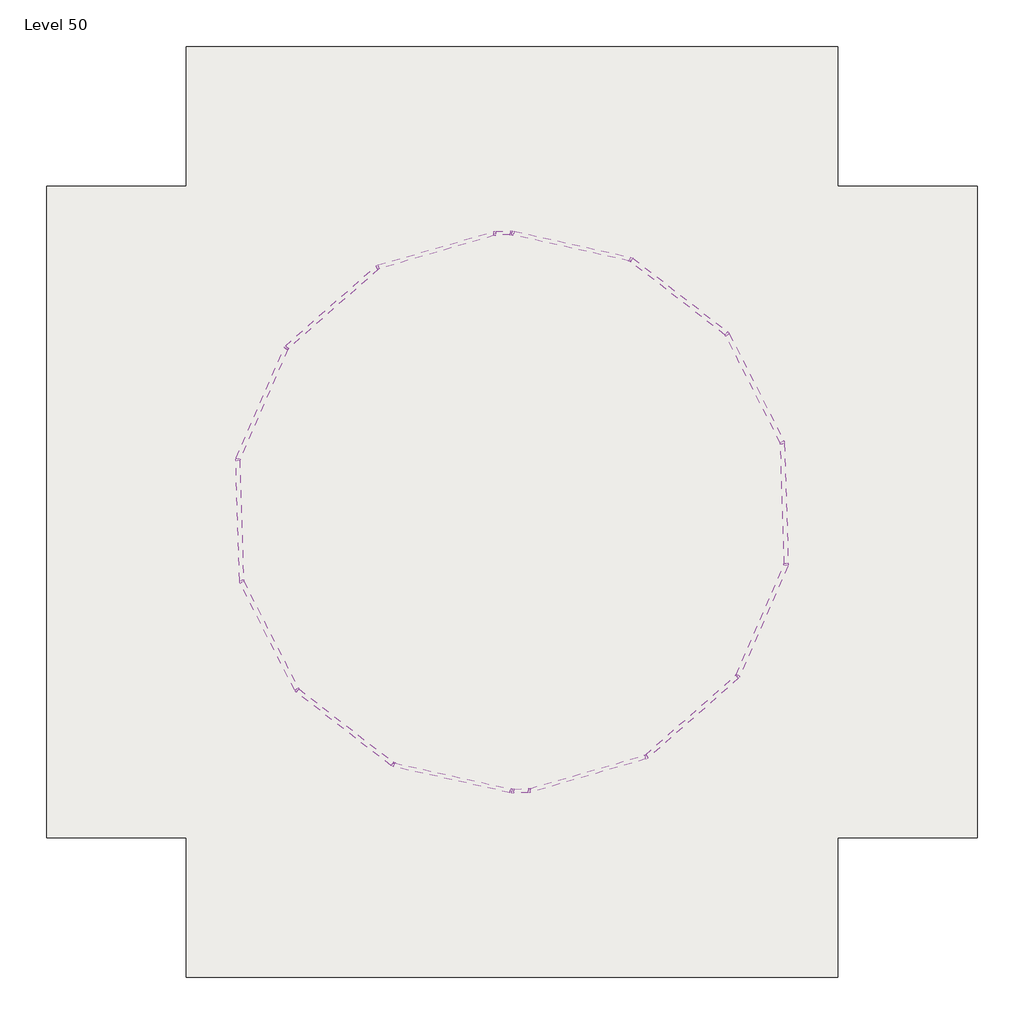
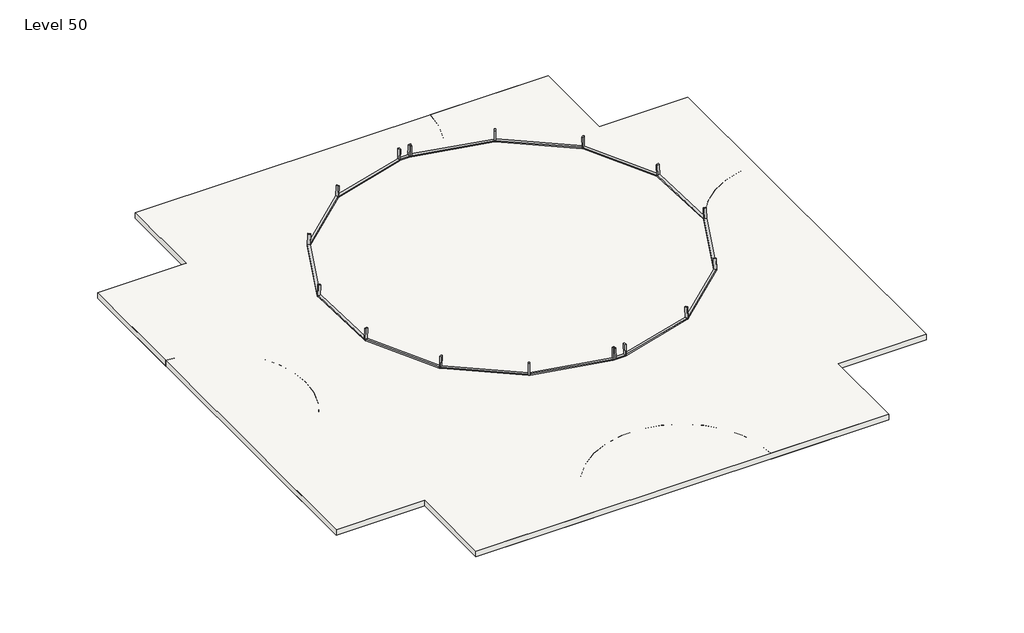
# One storey: 34 members, 3 slabs.
"""IFC4 building model written with IfcOpenShell, lengths in millimetres."""

import ifcopenshell
import ifcopenshell.guid

model = None  # the IFC model being written
_history = None  # IfcOwnerHistory: only IFC2X3 demands one
_inside = {}  # id of a spatial element -> (the spatial element, [elements in it])
_under = {}  # id of a project, library or spatial element -> (it, [spatial elements below it])
_declared = {}  # id of a project -> (the project, [libraries it declares])
_typed = {}  # id of a type object -> (the type object, [elements of that type])
_made_of = {}  # id of a material, layer set ... -> (it, [elements and type objects made of it])


def new_model(schema):
    """Start an empty IFC model of exactly this schema.

    Asked for "IFC4X3", IfcOpenShell would pick the latest addendum, in which some entities
    have other attributes; the version numbers below select the first issue.
    IFC2X3 requires an IfcOwnerHistory on every rooted entity: one is made here for all.
    """
    global model, _history
    if schema == "IFC4X3":
        model = ifcopenshell.file(schema_version=(4, 3, 0, 0))
    else:
        model = ifcopenshell.file(schema=schema)
    _inside.clear()
    _under.clear()
    _declared.clear()
    _typed.clear()
    _made_of.clear()
    _history = None
    if model.schema == "IFC2X3":
        org = make("IfcOrganization", Name="unknown")
        user = make(
            "IfcPersonAndOrganization",
            ThePerson=make("IfcPerson", FamilyName="unknown"),
            TheOrganization=org,
        )
        app = make(
            "IfcApplication",
            ApplicationDeveloper=org,
            Version="unknown",
            ApplicationFullName="unknown",
            ApplicationIdentifier="unknown",
        )
        _history = make(
            "IfcOwnerHistory",
            OwningUser=user,
            OwningApplication=app,
            ChangeAction="ADDED",
            CreationDate=0,
        )
    return model


def make(cls, **values):
    """One entity of the class cls with the attributes given. An attribute that is None is left unset."""
    return model.create_entity(
        cls, **{name: value for name, value in values.items() if value is not None}
    )


def rooted(cls, **values):
    """An entity with a GlobalId (a new one), such as an element, a storey or a relation."""
    return make(cls, GlobalId=ifcopenshell.guid.new(), OwnerHistory=_history, **values)


def si_unit(unit_type, name, prefix=None):
    """IfcSIUnit, for example si_unit("LENGTHUNIT", "METRE", prefix="MILLI")."""
    return make("IfcSIUnit", UnitType=unit_type, Prefix=prefix, Name=name)


def assignment(units):
    """IfcUnitAssignment: the units of a project."""
    return None if units is None else make("IfcUnitAssignment", Units=units)


def point(xyz):
    """IfcCartesianPoint."""
    return None if xyz is None else make("IfcCartesianPoint", Coordinates=xyz)


def direction(xyz):
    """IfcDirection."""
    return None if xyz is None else make("IfcDirection", DirectionRatios=xyz)


def frame(location, z_axis=None, x_axis=None):
    """IfcAxis2Placement3D, a coordinate frame: its origin and axes. An axis left out is left unset."""
    return make(
        "IfcAxis2Placement3D",
        Location=point(location),
        Axis=direction(z_axis),
        RefDirection=direction(x_axis),
    )


def frame_2d(location, x_axis=None):
    """IfcAxis2Placement2D, a coordinate frame in the plane: its origin and x axis."""
    return make(
        "IfcAxis2Placement2D", Location=point(location), RefDirection=direction(x_axis)
    )


def origin():
    """The frame at (0, 0, 0) with its axes left unset."""
    return frame((0.0, 0.0, 0.0))


def place(relative_to, where):
    """IfcLocalPlacement: puts the frame where relative to a parent placement (None: the world)."""
    return make(
        "IfcLocalPlacement", PlacementRelTo=relative_to, RelativePlacement=where
    )


def context(
    kind, dimensions, precision=None, world=None, true_north=None, identifier=None
):
    """IfcGeometricRepresentationContext, for example the 3D "Model" context."""
    return make(
        "IfcGeometricRepresentationContext",
        ContextIdentifier=identifier,
        ContextType=kind,
        CoordinateSpaceDimension=dimensions,
        Precision=precision,
        WorldCoordinateSystem=world,
        TrueNorth=true_north,
    )


def project(units=None, contexts=None):
    """IfcProject with its units and contexts."""
    return rooted(
        "IfcProject",
        Name="project",
        RepresentationContexts=contexts,
        UnitsInContext=assignment(units),
    )


def spatial(cls, under=None, at=None, **own):
    """A site, building, storey or space (cls), placed at a placement, below another one or the project."""
    s = rooted(cls, ObjectPlacement=at, **own)
    if under is not None:
        _under.setdefault(under.id(), (under, []))[1].append(s)
    return s


def polyline(points):
    """IfcPolyline through the points."""
    return make("IfcPolyline", Points=[point(p) for p in points])


def circle_curve(where, radius):
    """IfcCircle in the frame where."""
    return make("IfcCircle", Position=where, Radius=radius)


def trimmed(basis, trim1, trim2, sense, master):
    """IfcTrimmedCurve: the piece of a basis curve between two trims."""
    return make(
        "IfcTrimmedCurve",
        BasisCurve=basis,
        Trim1=trim1,
        Trim2=trim2,
        SenseAgreement=sense,
        MasterRepresentation=master,
    )


def segment(curve, same_sense, transition):
    """IfcCompositeCurveSegment."""
    return make(
        "IfcCompositeCurveSegment",
        Transition=transition,
        SameSense=same_sense,
        ParentCurve=curve,
    )


def composite_curve(segments, self_intersect=None):
    """IfcCompositeCurve: segments joined end to end."""
    return make("IfcCompositeCurve", Segments=segments, SelfIntersect=self_intersect)


def outline(outer, holes=None, kind="AREA"):
    """IfcArbitraryClosedProfileDef: a profile drawn as a closed curve; with holes, ...WithVoids."""
    if holes is None:
        return make("IfcArbitraryClosedProfileDef", ProfileType=kind, OuterCurve=outer)
    return make(
        "IfcArbitraryProfileDefWithVoids",
        ProfileType=kind,
        OuterCurve=outer,
        InnerCurves=holes,
    )


def extrude(swept, where, along, depth):
    """IfcExtrudedAreaSolid: the profile swept, set in the frame where, extruded along a direction by depth."""
    return make(
        "IfcExtrudedAreaSolid",
        SweptArea=swept,
        Position=where,
        ExtrudedDirection=direction(along),
        Depth=depth,
    )


def faces_of(points, faces, orient=None, outer=None):
    """IfcFace entities. A face is a list of loops; a loop is a list of indices into points, from 0.

    orient and outer hold one flag for each loop. By default every Orientation is true, the
    first loop of a face is its IfcFaceOuterBound and the others are IfcFaceBound.
    """
    made = []
    for i, loops in enumerate(faces):
        bounds = []
        for j, loop in enumerate(loops):
            is_outer = j == 0 if outer is None else outer[i][j]
            bounds.append(
                make(
                    "IfcFaceOuterBound" if is_outer else "IfcFaceBound",
                    Bound=make("IfcPolyLoop", Polygon=[points[k] for k in loop]),
                    Orientation=True if orient is None else orient[i][j],
                )
            )
        made.append(make("IfcFace", Bounds=bounds))
    return made


def faceted_brep(points, faces, orient=None, outer=None, voids=None):
    """IfcFacetedBrep: a solid bounded by flat faces; with voids (closed shells), ...WithVoids."""
    shared = [point(p) for p in points]
    hull = make("IfcClosedShell", CfsFaces=faces_of(shared, faces, orient, outer))
    if voids is None:
        return make("IfcFacetedBrep", Outer=hull)
    return make(
        "IfcFacetedBrepWithVoids",
        Outer=hull,
        Voids=[
            make(cls, CfsFaces=faces_of(shared, fs, o, b)) for cls, fs, o, b in voids
        ],
    )


def shape(context_of_items, identifier, shape_type, items):
    """IfcShapeRepresentation: the items that make up one representation, for example the "Body"."""
    return make(
        "IfcShapeRepresentation",
        ContextOfItems=context_of_items,
        RepresentationIdentifier=identifier,
        RepresentationType=shape_type,
        Items=items,
    )


def source(mapping_origin, context_of_items, identifier, shape_type, items):
    """IfcRepresentationMap: a shape defined once, which mapped items show again and again."""
    return make(
        "IfcRepresentationMap",
        MappingOrigin=mapping_origin,
        MappedRepresentation=shape(context_of_items, identifier, shape_type, items),
    )


def transform(
    local_origin,
    x_axis=None,
    y_axis=None,
    z_axis=None,
    scale=None,
    scale2=None,
    scale3=None,
    uniform=True,
):
    """IfcCartesianTransformationOperator3D, or its non-uniform kind. x_axis, y_axis, z_axis: its Axis1, 2, 3."""
    if uniform:
        return make(
            "IfcCartesianTransformationOperator3D",
            Axis1=direction(x_axis),
            Axis2=direction(y_axis),
            LocalOrigin=point(local_origin),
            Scale=scale,
            Axis3=direction(z_axis),
        )
    return make(
        "IfcCartesianTransformationOperator3DnonUniform",
        Axis1=direction(x_axis),
        Axis2=direction(y_axis),
        LocalOrigin=point(local_origin),
        Scale=scale,
        Axis3=direction(z_axis),
        Scale2=scale2,
        Scale3=scale3,
    )


def mapped(mapping_source, mapping_target):
    """IfcMappedItem: shows the shape of a source again, moved by a transform."""
    return make(
        "IfcMappedItem", MappingSource=mapping_source, MappingTarget=mapping_target
    )


def made_of(thing, what):
    """Note that an element or type object is made of a material, layer set ...; save() writes the relation."""
    if what is not None:
        _made_of.setdefault(what.id(), (what, []))[1].append(thing)
    return thing


def element(
    cls,
    number,
    at=None,
    inside=None,
    cuts=None,
    type_object=None,
    material=None,
    context=None,
    identifier="Body",
    shape_type=None,
    held_by="IfcProductDefinitionShape",
    body=None,
    shapes=None,
    **own,
):
    """One element of the class cls, such as IfcWall. Its Tag is "e" and its number.

    at: its placement. inside: the storey or other place that contains it. cuts: it is an
    opening in that element (IfcRelVoidsElement). A single representation is given by context,
    identifier, shape_type and body (its items); several are given by shapes. held_by: the class
    of the entity that holds the representations. save() writes the other relations.
    """
    e = rooted(cls, Tag="e%d" % number, ObjectPlacement=at, **own)
    if body is not None:
        shapes = [shape(context, identifier, shape_type, body)]
    if shapes is not None:
        e.Representation = make(held_by, Representations=shapes)
    if inside is not None:
        _inside.setdefault(inside.id(), (inside, []))[1].append(e)
    if cuts is not None:
        rooted(
            "IfcRelVoidsElement", RelatingBuildingElement=cuts, RelatedOpeningElement=e
        )
    if type_object is not None:
        _typed.setdefault(type_object.id(), (type_object, []))[1].append(e)
    return made_of(e, material)


def aggregate(whole, parts):
    """IfcRelAggregates: a whole, such as a stair, and the parts it consists of."""
    return rooted("IfcRelAggregates", RelatingObject=whole, RelatedObjects=parts)


def save(model, path):
    """Write the relations noted so far, then the file.

    IfcRelAggregates (storeys below a building ...), IfcRelContainedInSpatialStructure (elements
    in a storey), IfcRelDefinesByType, IfcRelAssociatesMaterial and IfcRelDeclares: one each for
    every whole, place, type object, material and project.
    """
    for whole, parts in _under.values():
        aggregate(whole, parts)
    for where, things in _inside.values():
        rooted(
            "IfcRelContainedInSpatialStructure",
            RelatedElements=things,
            RelatingStructure=where,
        )
    for kind, things in _typed.values():
        rooted("IfcRelDefinesByType", RelatedObjects=things, RelatingType=kind)
    for what, things in _made_of.values():
        rooted("IfcRelAssociatesMaterial", RelatedObjects=things, RelatingMaterial=what)
    for by, libraries in _declared.values():
        rooted("IfcRelDeclares", RelatingContext=by, RelatedDefinitions=libraries)
    model.write(path)


def member_0456bca8(model_context):
    return source(origin(), model_context, "Body", "SweptSolid", [
        extrude(outline(polyline([(0.0, 63.5), (0.0, -63.5), (-63.5, -63.5), (-63.5, 63.5), (0.0, 63.5)])), frame((0.0, 0.0, -3895.5187766), z_axis=(0.0, 0.0, 1.0), x_axis=(1.0, 0.0, 0.0)), (0.0, 0.0, 1.0), 3895.5187766),
    ])


def member_fa179ced(model_context):
    return source(origin(), model_context, "Body", "SweptSolid", [
        extrude(outline(polyline([(0.0, 63.5), (0.0, -63.5), (-63.5, -63.5), (-63.5, 63.5), (0.0, 63.5)])), frame((0.0, 0.0, -3927.2687766), z_axis=(0.0, 0.0, 1.0), x_axis=(1.0, 0.0, 0.0)), (0.0, 0.0, 1.0), 3927.2687766),
    ])


def member_23fb2982(model_context):
    return source(origin(), model_context, "Body", "SweptSolid", [
        extrude(outline(polyline([(0.0, 63.5), (0.0, -63.5), (-63.5, -63.5), (-63.5, 63.5), (0.0, 63.5)])), frame((0.0, 0.0, -469.4025577), z_axis=(0.0, 0.0, 1.0), x_axis=(1.0, 0.0, 0.0)), (0.0, 0.0, 1.0), 469.4025577),
    ])


def member_340acb32(model_context):
    return source(origin(), model_context, "Body", "SweptSolid", [
        extrude(outline(polyline([(-63.5, -3.7401328), (63.5, 3.7401328), (63.5, -625.9387085), (-63.5, -625.9387085), (-63.5, -3.7401328)])), frame((-31.75, 0.0, 0.0), z_axis=(1.0, 0.0, 0.0), x_axis=(0.0, 1.0, 0.0)), (0.0, 0.0, 1.0), 63.5),
    ])


def member_628a761d(model_context):
    return source(origin(), model_context, "Body", "Brep", [
        faceted_brep([(0.0, 63.5, -625.9387085), (0.0, -63.5, -625.9387085), (-63.5, -63.5, -625.9387085), (-63.5, 63.5, -625.9387085), (-63.5, 63.5, 3.6229405), (0.0, 63.5, 3.7383517), (-63.5, -63.5, -3.8537629), (0.0, -63.5, -3.7383517)], [[[0, 1, 2, 3]], [[4, 5, 0, 3]], [[6, 4, 3, 2]], [[7, 6, 2, 1]], [[5, 7, 1, 0]], [[5, 4, 6, 7]]]),
    ])


def member_ef28eaa1(model_context):
    return source(origin(), model_context, "Body", "Brep", [
        faceted_brep([(0.0, 63.5, 0.0), (-63.5, 63.5, 0.0), (-63.5, -63.5, 0.0), (0.0, -63.5, 0.0), (0.0, 63.5, -629.5888061), (-63.5, 63.5, -628.7730977), (-63.5, -63.5, -621.4729024), (0.0, -63.5, -622.2886108)], [[[0, 1, 2, 3]], [[1, 0, 4, 5]], [[2, 1, 5, 6]], [[3, 2, 6, 7]], [[0, 3, 7, 4]], [[4, 7, 6, 5]]]),
    ])


model = new_model("IFC4")

# Units and contexts
model_context = context("Model", 3, world=origin())
ifc_project = project(units=[si_unit("LENGTHUNIT", "METRE", prefix="MILLI")], contexts=[model_context])

# Site, building, storey
site = spatial("IfcSite", under=ifc_project)
building = spatial("IfcBuilding", under=site)
storey = spatial("IfcBuildingStorey", under=building, Name="Level 50", Elevation=149352.0)

# Members
placement = place(None, origin())
member_shape = member_0456bca8(model_context)
element("IfcMember", 1, ObjectType="Rectangular Mullion : 2.5\" x 5\" rectangular", at=placement, inside=storey, context=model_context, shape_type="MappedRepresentation", body=[
    mapped(member_shape, transform((-345.9696586, -14468.4078204, 152400.0), x_axis=(-0.007289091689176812, -0.032597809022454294, -0.9994419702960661), y_axis=(-0.2180961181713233, -0.9753554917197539, 0.03340281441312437), z_axis=(-0.9759000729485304, 0.21821789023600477, 0.0))),
])
element("IfcMember", 2, ObjectType="Rectangular Mullion : 2.5\" x 5\" rectangular", at=placement, inside=storey, context=model_context, shape_type="MappedRepresentation", body=[
    mapped(member_shape, transform((7381.2437673, 2091.7347299, 152400.0), x_axis=(0.007289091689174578, 0.03259780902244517, -0.9994419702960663), y_axis=(0.21809611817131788, 0.9753554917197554, 0.03340281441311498), z_axis=(0.9759000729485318, -0.2182178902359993, 0.0))),
])
member_2_shape = member_fa179ced(model_context)
element("IfcMember", 3, ObjectType="Rectangular Mullion : 2.5\" x 5\" rectangular", at=placement, inside=storey, context=model_context, shape_type="MappedRepresentation", body=[
    mapped(member_2_shape, transform((-3504.6361106, -12034.2510802, 152400.0), x_axis=(-0.020478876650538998, -0.026388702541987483, -0.9994419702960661), y_axis=(-0.6127462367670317, -0.789573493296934, 0.03340281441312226), z_axis=(-0.7900143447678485, 0.6130883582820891, 0.0))),
])
element("IfcMember", 4, ObjectType="Rectangular Mullion : 2.5\" x 5\" rectangular", at=placement, inside=storey, context=model_context, shape_type="MappedRepresentation", body=[
    mapped(member_2_shape, transform((-5325.7267217, -8486.5868096, 152400.0), x_axis=(-0.02976792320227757, -0.01515317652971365, -0.9994419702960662), y_axis=(-0.8906827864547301, -0.45339654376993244, 0.03340281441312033), z_axis=(-0.45364969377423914, 0.8911800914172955, 0.0))),
])
element("IfcMember", 5, ObjectType="Rectangular Mullion : 2.5\" x 5\" rectangular", at=placement, inside=storey, context=model_context, shape_type="MappedRepresentation", body=[
    mapped(member_2_shape, transform((-5462.3670898, -4501.1605838, 152400.0), x_axis=(-0.03338688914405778, -0.001031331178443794, -0.9994419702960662), y_axis=(-0.998965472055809, -0.030858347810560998, 0.033402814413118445), z_axis=(-0.030875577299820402, 0.9995232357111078, 0.0))),
])
element("IfcMember", 6, ObjectType="Rectangular Mullion : 2.5\" x 5\" rectangular", at=placement, inside=storey, context=model_context, shape_type="MappedRepresentation", body=[
    mapped(member_2_shape, transform((-3888.530478, -837.1012078, 152400.0), x_axis=(-0.030646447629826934, 0.01328695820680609, -0.9994419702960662), y_axis=(-0.9169690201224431, 0.3975576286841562, 0.033402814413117), z_axis=(0.39777960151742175, 0.9174810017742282, 0.0))),
])
element("IfcMember", 7, ObjectType="Rectangular Mullion : 2.5\" x 5\" rectangular", at=placement, inside=storey, context=model_context, shape_type="MappedRepresentation", body=[
    mapped(member_2_shape, transform((-903.9952886, 1807.6752467, 152400.0), x_axis=(-0.02206858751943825, 0.025074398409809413, -0.9994419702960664), y_axis=(-0.6603118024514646, 0.7502483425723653, 0.03340281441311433), z_axis=(0.7506672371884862, 0.66068048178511, 0.0))),
])
element("IfcMember", 8, ObjectType="Rectangular Mullion : 2.5\" x 5\" rectangular", at=placement, inside=storey, context=model_context, shape_type="MappedRepresentation", body=[
    mapped(member_2_shape, transform((2922.7555852, 2929.4018361, 152400.0), x_axis=(-0.00928718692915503, 0.03208576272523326, -0.9994419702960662), y_axis=(-0.27788090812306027, 0.9600346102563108, 0.033402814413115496), z_axis=(0.9605706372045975, 0.2780360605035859, 0.0))),
])
element("IfcMember", 9, ObjectType="Rectangular Mullion : 2.5\" x 5\" rectangular", at=placement, inside=storey, context=model_context, shape_type="MappedRepresentation", body=[
    mapped(member_2_shape, transform((10539.9102194, -342.4220103, 152400.0), x_axis=(0.020478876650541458, 0.026388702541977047, -0.9994419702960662), y_axis=(0.6127462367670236, 0.7895734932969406, 0.033402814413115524), z_axis=(0.7900143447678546, -0.613088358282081, 0.0))),
])
element("IfcMember", 10, ObjectType="Rectangular Mullion : 2.5\" x 5\" rectangular", at=placement, inside=storey, context=model_context, shape_type="MappedRepresentation", body=[
    mapped(member_2_shape, transform((12361.0008305, -3890.086281, 152400.0), x_axis=(0.029767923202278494, 0.01515317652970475, -0.9994419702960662), y_axis=(0.8906827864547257, 0.45339654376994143, 0.03340281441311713), z_axis=(0.45364969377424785, -0.891180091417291, 0.0))),
])
element("IfcMember", 11, ObjectType="Rectangular Mullion : 2.5\" x 5\" rectangular", at=placement, inside=storey, context=model_context, shape_type="MappedRepresentation", body=[
    mapped(member_2_shape, transform((12497.6411985, -7875.5125067, 152400.0), x_axis=(0.03338688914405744, 0.0010313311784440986, -0.9994419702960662), y_axis=(0.9989654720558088, 0.03085834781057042, 0.03340281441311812), z_axis=(0.030875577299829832, -0.9995232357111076, 0.0))),
])
element("IfcMember", 12, ObjectType="Rectangular Mullion : 2.5\" x 5\" rectangular", at=placement, inside=storey, context=model_context, shape_type="MappedRepresentation", body=[
    mapped(member_2_shape, transform((10923.8045867, -11539.5718827, 152400.0), x_axis=(0.030646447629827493, -0.013286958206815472, -0.9994419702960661), y_axis=(0.9169690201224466, -0.39755762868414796, 0.03340281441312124), z_axis=(-0.3977796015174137, -0.9174810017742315, 0.0))),
])
element("IfcMember", 13, ObjectType="Rectangular Mullion : 2.5\" x 5\" rectangular", at=placement, inside=storey, context=model_context, shape_type="MappedRepresentation", body=[
    mapped(member_2_shape, transform((7939.2693973, -14184.3483372, 152400.0), x_axis=(0.02206858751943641, -0.02507439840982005, -0.9994419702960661), y_axis=(0.6603118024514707, -0.7502483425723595, 0.0334028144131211), z_axis=(-0.7506672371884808, -0.6606804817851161, 0.0))),
])
element("IfcMember", 14, ObjectType="Rectangular Mullion : 2.5\" x 5\" rectangular", at=placement, inside=storey, context=model_context, shape_type="MappedRepresentation", body=[
    mapped(member_2_shape, transform((4112.5185236, -15306.0749267, 152400.0), x_axis=(0.009287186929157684, -0.03208576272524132, -0.9994419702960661), y_axis=(0.277880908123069, -0.9600346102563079, 0.033402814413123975), z_axis=(-0.9605706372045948, -0.27803606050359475, 0.0))),
])
member_3_shape = member_23fb2982(model_context)
element("IfcMember", 15, ObjectType="Rectangular Mullion : 2.5\" x 5\" rectangular", at=placement, inside=storey, context=model_context, shape_type="MappedRepresentation", body=[
    mapped(member_3_shape, transform((3454.1673289, 2953.7028556, 152400.0), x_axis=(-0.0010562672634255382, 0.03419413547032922, -0.9994146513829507), y_axis=(-0.030857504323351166, 0.9989381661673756, 0.034210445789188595), z_axis=(0.9995232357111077, 0.030875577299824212, 0.0))),
])
element("IfcMember", 16, ObjectType="Rectangular Mullion : 2.5\" x 5\" rectangular", at=placement, inside=storey, context=model_context, shape_type="MappedRepresentation", body=[
    mapped(member_3_shape, transform((3581.1067798, -15330.3759461, 152400.0), x_axis=(0.0010562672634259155, -0.034194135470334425, -0.9994146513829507), y_axis=(0.03085750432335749, -0.9989381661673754, 0.03421044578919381), z_axis=(-0.9995232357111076, -0.030875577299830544, 0.0))),
])
member_4_shape = member_340acb32(model_context)
element("IfcMember", 17, ObjectType="Rectangular Mullion : 2.5\" x 5\" rectangular", at=placement, inside=storey, context=model_context, shape_type="MappedRepresentation", body=[
    mapped(member_4_shape, transform((-3513.2075327, -12001.1345038, 153025.5719668), x_axis=(-0.6371882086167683, 0.7707082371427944, 0.0), y_axis=(-0.7702566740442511, -0.6368148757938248, 0.034226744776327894), z_axis=(0.026378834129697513, 0.021808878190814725, 0.9994140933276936))),
])
element("IfcMember", 18, ObjectType="Rectangular Mullion : 2.5\" x 5\" rectangular", at=placement, inside=storey, context=model_context, shape_type="MappedRepresentation", body=[
    mapped(member_4_shape, transform((-5319.3768815, -8452.9734723, 153025.5719668), x_axis=(-0.24824532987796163, 0.9686971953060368, 0.0), y_axis=(-0.9681296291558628, -0.24809988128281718, 0.03422674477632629), z_axis=(0.03315535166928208, 0.008496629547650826, 0.9994140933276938))),
])
element("IfcMember", 19, ObjectType="Rectangular Mullion : 2.5\" x 5\" rectangular", at=placement, inside=storey, context=model_context, shape_type="MappedRepresentation", body=[
    mapped(member_4_shape, transform((-367.8296911, -14442.0959241, 153025.5719668), x_axis=(-0.9047619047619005, 0.4259177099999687, 0.0), y_axis=(-0.4256681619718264, -0.904231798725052, 0.0342267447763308), z_axis=(0.014577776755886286, 0.030967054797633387, 0.9994140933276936))),
])
element("IfcMember", 20, ObjectType="Rectangular Mullion : 2.5\" x 5\" rectangular", at=placement, inside=storey, context=model_context, shape_type="MappedRepresentation", body=[
    mapped(member_4_shape, transform((-5442.3054806, -4473.4530262, 153025.5719668), x_axis=(0.18798237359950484, 0.9821724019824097, 0.0), y_axis=(-0.9815969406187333, 0.1878722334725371, 0.03422674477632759), z_axis=(0.03361656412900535, -0.006434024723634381, 0.9994140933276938))),
])
element("IfcMember", 21, ObjectType="Rectangular Mullion : 2.5\" x 5\" rectangular", at=placement, inside=storey, context=model_context, shape_type="MappedRepresentation", body=[
    mapped(member_4_shape, transform((-3858.5783588, -820.5770599, 153025.5719668), x_axis=(0.5884039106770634, 0.8085671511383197, 0.0), y_axis=(-0.8080934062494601, 0.5880591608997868, 0.034226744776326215), z_axis=(0.027674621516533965, -0.020139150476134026, 0.9994140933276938))),
])
element("IfcMember", 22, ObjectType="Rectangular Mullion : 2.5\" x 5\" rectangular", at=placement, inside=storey, context=model_context, shape_type="MappedRepresentation", body=[
    mapped(member_4_shape, transform((-869.8578249, 1809.8685283, 153025.5719668), x_axis=(0.8767485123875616, 0.4809491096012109, 0.0), y_axis=(-0.48066731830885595, 0.8762348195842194, 0.03422674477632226), z_axis=(0.016461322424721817, -0.03000824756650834, 0.999414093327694))),
])
element("IfcMember", 23, ObjectType="Rectangular Mullion : 2.5\" x 5\" rectangular", at=placement, inside=storey, context=model_context, shape_type="MappedRepresentation", body=[
    mapped(member_4_shape, transform((2954.5760193, 2916.8464834, 153025.5719668), x_axis=(0.9980933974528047, 0.061721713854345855, 0.0), y_axis=(-0.061685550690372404, 0.9975086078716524, 0.03422674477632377), z_axis=(0.0021125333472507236, -0.034161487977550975, 0.9994140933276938))),
])
element("IfcMember", 24, ObjectType="Rectangular Mullion : 2.5\" x 5\" rectangular", at=placement, inside=storey, context=model_context, shape_type="MappedRepresentation", body=[
    mapped(member_4_shape, transform((7403.1037999, 2065.4228336, 153025.5719668), x_axis=(0.9047619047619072, -0.4259177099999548, 0.0), y_axis=(0.42566816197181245, 0.9042317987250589, 0.03422674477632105), z_axis=(-0.014577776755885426, -0.030967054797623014, 0.9994140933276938))),
])
element("IfcMember", 25, ObjectType="Rectangular Mullion : 2.5\" x 5\" rectangular", at=placement, inside=storey, context=model_context, shape_type="MappedRepresentation", body=[
    mapped(member_4_shape, transform((10548.4816414, -375.5385867, 153025.5719668), x_axis=(0.6371882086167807, -0.7707082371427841, 0.0), y_axis=(0.7702566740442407, 0.6368148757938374, 0.03422674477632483), z_axis=(-0.026378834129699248, -0.02180887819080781, 0.9994140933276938))),
])
element("IfcMember", 26, ObjectType="Rectangular Mullion : 2.5\" x 5\" rectangular", at=placement, inside=storey, context=model_context, shape_type="MappedRepresentation", body=[
    mapped(member_4_shape, transform((12354.6509902, -3923.6996182, 153025.5719668), x_axis=(0.24824532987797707, -0.9686971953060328, 0.0), y_axis=(0.9681296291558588, 0.24809988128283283, 0.034226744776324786), z_axis=(-0.03315535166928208, -0.008496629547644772, 0.9994140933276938))),
])
element("IfcMember", 27, ObjectType="Rectangular Mullion : 2.5\" x 5\" rectangular", at=placement, inside=storey, context=model_context, shape_type="MappedRepresentation", body=[
    mapped(member_4_shape, transform((12477.5795894, -7903.2200643, 153025.5719668), x_axis=(-0.1879823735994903, -0.9821724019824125, 0.0), y_axis=(0.981596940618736, -0.18787223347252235, 0.03422674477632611), z_axis=(-0.033616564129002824, 0.006434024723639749, 0.9994140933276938))),
])
element("IfcMember", 28, ObjectType="Rectangular Mullion : 2.5\" x 5\" rectangular", at=placement, inside=storey, context=model_context, shape_type="MappedRepresentation", body=[
    mapped(member_4_shape, transform((10893.8524675, -11556.0960307, 153025.5719668), x_axis=(-0.5884039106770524, -0.8085671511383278, 0.0), y_axis=(0.8080934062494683, -0.5880591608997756, 0.034226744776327), z_axis=(-0.027674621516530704, 0.02013915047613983, 0.9994140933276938))),
])
element("IfcMember", 29, ObjectType="Rectangular Mullion : 2.5\" x 5\" rectangular", at=placement, inside=storey, context=model_context, shape_type="MappedRepresentation", body=[
    mapped(member_4_shape, transform((7905.1319337, -14186.5416188, 153025.5719668), x_axis=(-0.876748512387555, -0.4809491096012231, 0.0), y_axis=(0.480667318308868, -0.8762348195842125, 0.03422674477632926), z_axis=(-0.016461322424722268, 0.030008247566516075, 0.9994140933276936))),
])
element("IfcMember", 30, ObjectType="Rectangular Mullion : 2.5\" x 5\" rectangular", at=placement, inside=storey, context=model_context, shape_type="MappedRepresentation", body=[
    mapped(member_4_shape, transform((4080.6980895, -15293.5195739, 153025.5719668), x_axis=(-0.9980933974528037, -0.061721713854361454, 0.0), y_axis=(0.06168555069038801, -0.9975086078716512, 0.03422674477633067), z_axis=(-0.002112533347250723, 0.034161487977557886, 0.9994140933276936))),
])
member_5_shape = member_628a761d(model_context)
element("IfcMember", 31, ObjectType="Rectangular Mullion : 2.5\" x 5\" rectangular", at=placement, inside=storey, context=model_context, shape_type="MappedRepresentation", body=[
    mapped(member_5_shape, transform((3517.6370544, 2934.2396103, 153025.5719668), x_axis=(0.9995237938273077, 0.030839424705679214, 0.0010561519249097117), y_axis=(-0.03085750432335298, 0.9989381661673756, 0.034210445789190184), z_axis=(0.0, -0.034226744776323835, 0.9994140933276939))),
])
element("IfcMember", 32, ObjectType="Rectangular Mullion : 2.5\" x 5\" rectangular", at=placement, inside=storey, context=model_context, shape_type="MappedRepresentation", body=[
    mapped(member_5_shape, transform((3517.6370544, -15310.9127008, 153025.5719668), x_axis=(-0.9995237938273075, -0.030839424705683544, 0.0010561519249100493), y_axis=(0.030857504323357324, -0.9989381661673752, 0.03421044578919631), z_axis=(0.0, 0.03422674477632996, 0.9994140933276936))),
])
member_6_shape = member_ef28eaa1(model_context)
element("IfcMember", 33, ObjectType="Rectangular Mullion : 2.5\" x 5\" rectangular", at=placement, inside=storey, context=model_context, shape_type="MappedRepresentation", body=[
    mapped(member_6_shape, transform((3517.6370544, -15332.3365453, 152400.0), x_axis=(0.9759272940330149, -0.2179683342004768, 0.007464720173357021), y_axis=(-0.21809611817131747, -0.9753554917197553, 0.033402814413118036), z_axis=(0.0, -0.03422674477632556, -0.9994140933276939))),
])
element("IfcMember", 34, ObjectType="Rectangular Mullion : 2.5\" x 5\" rectangular", at=placement, inside=storey, context=model_context, shape_type="MappedRepresentation", body=[
    mapped(member_6_shape, transform((3517.6370544, 2955.6634547, 152400.0), x_axis=(-0.9759272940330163, 0.21796833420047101, 0.007464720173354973), y_axis=(0.2180961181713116, 0.9753554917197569, 0.03340281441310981), z_axis=(0.0, 0.03422674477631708, -0.999414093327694))),
])

# Slabs
element("IfcSlab", 35, ObjectType="Generic - 12\"", at=placement, inside=storey, context=model_context, shape_type="SweptSolid", body=[
    extrude(outline(polyline([(-7150.3629456, 4479.6634547), (-7150.3629456, 9051.6634547), (14185.6370544, 9051.6634547), (14185.6370544, 4479.6634547), (18757.6370544, 4479.6634547), (18757.6370544, -16856.3365453), (14185.6370544, -16856.3365453), (14185.6370544, -21428.3365453), (-7150.3629456, -21428.3365453), (-7150.3629456, -16856.3365453), (-11722.3629456, -16856.3365453), (-11722.3629456, 4479.6634547), (-7150.3629456, 4479.6634547)])), frame((0.0, 0.0, 149047.2), z_axis=(0.0, 0.0, 1.0), x_axis=(1.0, 0.0, 0.0)), (0.0, 0.0, 1.0), 304.8),
])
element("IfcSlab", 36, ObjectType="Generic - 12\"", at=placement, inside=storey, context=model_context, shape_type="SweptSolid", body=[
    extrude(outline(polyline([(-7150.3629456, 4479.6634547), (-7150.3629456, 9051.6634547), (14185.6370544, 9051.6634547), (14185.6370544, 4479.6634547), (18757.6370544, 4479.6634547), (18757.6370544, -16856.3365453), (14185.6370544, -16856.3365453), (14185.6370544, -21428.3365453), (-7150.3629456, -21428.3365453), (-7150.3629456, -16856.3365453), (-11722.3629456, -16856.3365453), (-11722.3629456, 4479.6634547), (-7150.3629456, 4479.6634547)])), frame((0.0, 0.0, 149047.2), z_axis=(0.0, 0.0, 1.0), x_axis=(1.0, 0.0, 0.0)), (0.0, 0.0, 1.0), 304.8),
])
element("IfcSlab", 37, ObjectType="Generic - 12\"", at=placement, inside=storey, context=model_context, shape_type="SweptSolid", body=[
    extrude(outline(composite_curve([segment(polyline([(-7150.3629456, 4479.6634547), (-7150.3629456, 9051.6634547), (-1054.3629456, 9051.6634547)]), True, "CONTINUOUS"), segment(trimmed(circle_curve(frame_2d((3517.6370544, 9051.6634547)), 4572.0), [point((-1054.3629456, 9051.6634547))], [point((8089.6370544, 9051.6634547))], True, "CARTESIAN"), True, "CONTINUOUS"), segment(polyline([(8089.6370544, 9051.6634547), (14185.6370544, 9051.6634547), (14185.6370544, 4479.6634547), (18757.6370544, 4479.6634547), (18757.6370544, -1616.3365453)]), True, "CONTINUOUS"), segment(trimmed(circle_curve(frame_2d((18757.6370544, -6188.3365453)), 4572.0), [point((18757.6370544, -1616.3365453))], [point((18757.6370544, -10760.3365453))], True, "CARTESIAN"), True, "CONTINUOUS"), segment(polyline([(18757.6370544, -10760.3365453), (18757.6370544, -16856.3365453), (14185.6370544, -16856.3365453), (14185.6370544, -21428.3365453), (8089.6370544, -21428.3365453)]), True, "CONTINUOUS"), segment(trimmed(circle_curve(frame_2d((3517.6370544, -21428.3365453)), 4572.0), [point((8089.6370544, -21428.3365453))], [point((-1054.3629456, -21428.3365453))], True, "CARTESIAN"), True, "CONTINUOUS"), segment(polyline([(-1054.3629456, -21428.3365453), (-7150.3629456, -21428.3365453), (-7150.3629456, -16856.3365453), (-11722.3629456, -16856.3365453), (-11722.3629456, -10760.3365453)]), True, "CONTINUOUS"), segment(trimmed(circle_curve(frame_2d((-11722.3629456, -6188.3365453)), 4572.0), [point((-11722.3629456, -10760.3365453))], [point((-11722.3629456, -1616.3365453))], True, "CARTESIAN"), True, "CONTINUOUS"), segment(polyline([(-11722.3629456, -1616.3365453), (-11722.3629456, 4479.6634547), (-7150.3629456, 4479.6634547)]), True, "CONTINUOUS")], self_intersect=False)), frame((0.0, 0.0, 149047.2), z_axis=(0.0, 0.0, 1.0), x_axis=(1.0, 0.0, 0.0)), (0.0, 0.0, 1.0), 304.8),
])

save(model, "model.ifc")
